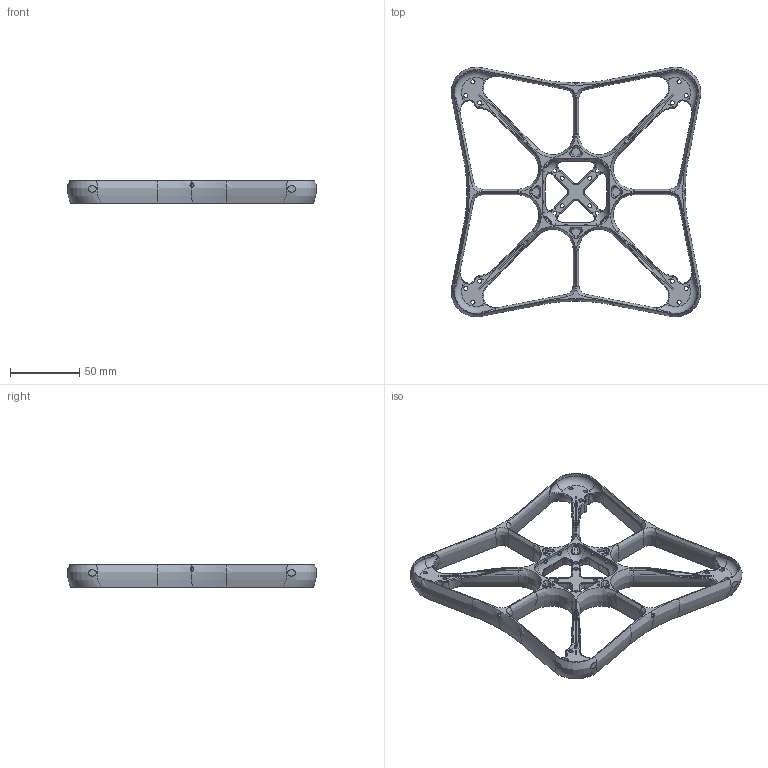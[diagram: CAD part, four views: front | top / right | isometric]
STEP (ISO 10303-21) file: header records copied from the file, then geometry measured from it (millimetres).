
FILE_DESCRIPTION(('FreeCAD Model'),'2;1');
FILE_NAME('Open CASCADE Shape Model','2023-09-23T14:24:59',(''),(''), 'Open CASCADE STEP processor 7.6','FreeCAD','Unknown');
FILE_SCHEMA(('AUTOMOTIVE_DESIGN { 1 0 10303 214 1 1 1 1 }'));
Products named in the file (1): Fusion292
Bounding box: 180 x 180 x 16 mm (x, y, z)
Volume: 84061.1 mm3; surface area: 54898.8 mm2
Topology: 1 solids, 1 shells, 667 faces, 1780 edges, 1080 vertices
Faces by surface type: bspline 468, cylinder 96, plane 43, torus 32, cone 24, sphere 4
Full cylindrical faces by diameter (mm): 2.3 x12, 3 x20, 5.9 x20
Entity records: 69448 total; most frequent: CARTESIAN_POINT 57136, ORIENTED_EDGE 3560, EDGE_CURVE 1780, DIRECTION 1468, VERTEX_POINT 1080, FACE_BOUND 736, EDGE_LOOP 736, ADVANCED_FACE 667
